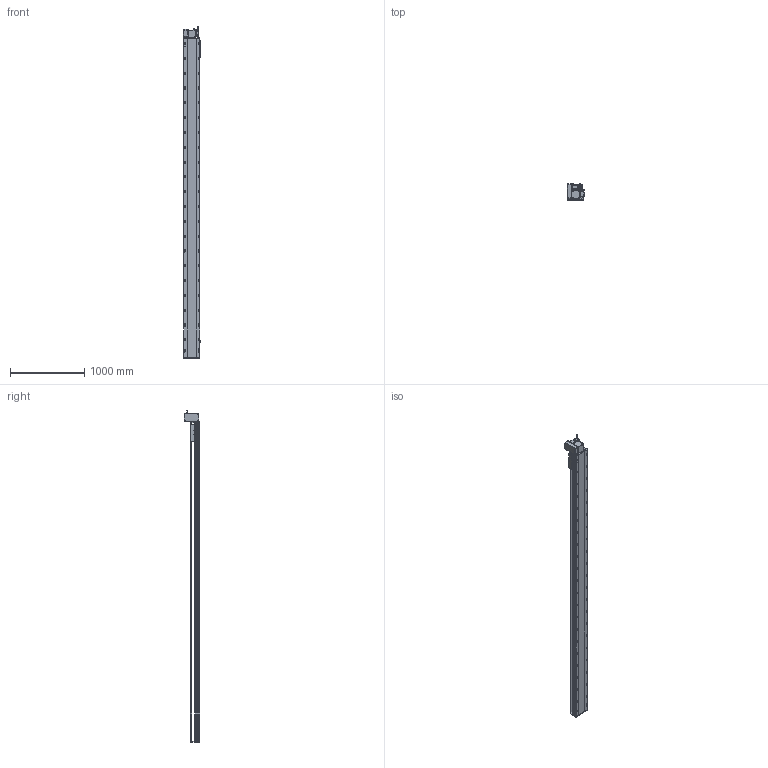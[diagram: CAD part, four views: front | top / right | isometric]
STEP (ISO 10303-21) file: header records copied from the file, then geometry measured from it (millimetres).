
FILE_DESCRIPTION (( 'STEP AP214' ), '1' );
FILE_NAME ('RTB22S-XX-3950-LW-M75-C4.STEP', '2025-12-12T07:10:53', ( '' ), ( '' ), 'SwSTEP 2.0', 'SolidWorks 2018', '' );
FILE_SCHEMA (( 'AUTOMOTIVE_DESIGN' ));
Length unit declared in the file: millimetre
Products named in the file (14): RTB22S-XX-3950-LW-M75-C4; OMRON EE-SX672 传感器^RTB22S-XX-XX-LW-M75-C4; RTB22S-GY-005P^RTB22S-LW-々湍釱蚾饜_RTB22S-XX-XX-LW-M75-C4; RTB22S-GY-017P^RTB22S-LW-々湍釱蚾饜_RTB22S-XX-XX-LW-M75-C4; RTB22S-GY-001耜裔^RTB22S-XX-XX-LW-M75-C4; RTB22S-LW-々湍釱蚾饜^RTB22S-XX-XX-LW-M75-C4; RTH22-GY-013外置感应片^RTB22S-XX-XX-LW-M75-C4; 750W萇儂^RTB22S-XX-XX-LW-M75-C4; RTB22S-GY-008-M75--萇儂啣^RTB22S-LW-々湍釱蚾饜_RTB22S-XX-XX-LW-M75-C4; RTB22S-L-011菁釱^RTB22S-XX-XX-LW-M75-C4; RTB22S-GY-014--々湍釱^RTB22S-LW-々湍釱蚾饜_RTB22S-XX-XX-LW-M75-C4; RTB22S-L-004賑釱^RTB22S-XX-XX-LW-M75-C4; RTB22S-GY-007奻裔^RTB22S-XX-XX-LW-M75-C4; RTB22S-GY-018P^RTB22S-LW-々湍釱蚾饜_RTB22S-XX-XX-LW-M75-C4
Assembly tree (16 placements, depth 3):
  RTB22S-XX-3950-LW-M75-C4
    RTB22S-L-011菁釱^RTB22S-XX-XX-LW-M75-C4
    RTB22S-GY-001耜裔^RTB22S-XX-XX-LW-M75-C4
    750W萇儂^RTB22S-XX-XX-LW-M75-C4
    RTB22S-GY-007奻裔^RTB22S-XX-XX-LW-M75-C4
    RTB22S-L-004賑釱^RTB22S-XX-XX-LW-M75-C4
    RTH22-GY-013外置感应片^RTB22S-XX-XX-LW-M75-C4
    OMRON EE-SX672 传感器^RTB22S-XX-XX-LW-M75-C4  x3
    RTB22S-LW-々湍釱蚾饜^RTB22S-XX-XX-LW-M75-C4
      RTB22S-GY-014--々湍釱^RTB22S-LW-々湍釱蚾饜_RTB22S-XX-XX-LW-M75-C4
      RTB22S-GY-017P^RTB22S-LW-々湍釱蚾饜_RTB22S-XX-XX-LW-M75-C4  x2
      RTB22S-GY-005P^RTB22S-LW-々湍釱蚾饜_RTB22S-XX-XX-LW-M75-C4
      RTB22S-GY-008-M75--萇儂啣^RTB22S-LW-々湍釱蚾饜_RTB22S-XX-XX-LW-M75-C4
      RTB22S-GY-018P^RTB22S-LW-々湍釱蚾饜_RTB22S-XX-XX-LW-M75-C4
Bounding box: 238.5 x 215.5 x 4482.2 mm (x, y, z)
Volume: 55657502 mm3; surface area: 5652809.5 mm2
Topology: 15 solids, 15 shells, 2235 faces, 6086 edges, 3872 vertices
Faces by surface type: plane 943, cylinder 790, bspline 296, cone 194, sphere 8, torus 4
Entity records: 61980 total; most frequent: CARTESIAN_POINT 17244, ORIENTED_EDGE 8848, DIRECTION 8758, EDGE_CURVE 4424, AXIS2_PLACEMENT_3D 3182, VERTEX_POINT 2876, VECTOR 2394, LINE 2394
